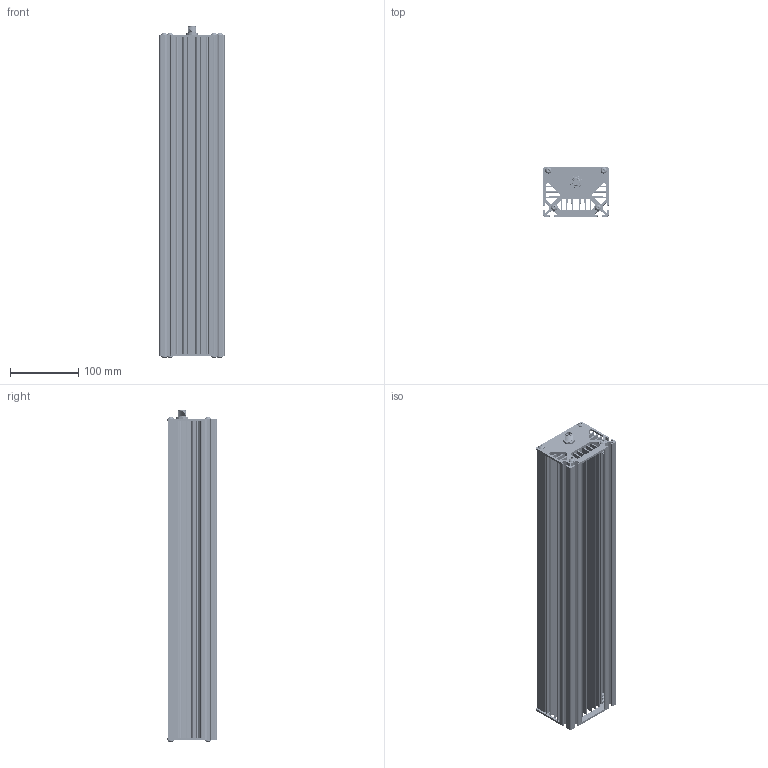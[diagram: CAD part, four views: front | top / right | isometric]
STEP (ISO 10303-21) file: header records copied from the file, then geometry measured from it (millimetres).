
FILE_DESCRIPTION (( 'STEP AP214' ), '1' );
FILE_NAME ('MLLT117.25-XXX.STEP', '2026-05-26T02:05:48', ( '' ), ( '' ), 'SwSTEP 2.0', 'SolidWorks 2025', '' );
FILE_SCHEMA (( 'AUTOMOTIVE_DESIGN' ));
Length unit declared in the file: inch
Products named in the file (22): 2500-00565C-SB; MLL111.5-3535_PCB-LL111.5; MLL111.5-3535; 2500-00565C_ASM; MLL111.5-3535_PCB-LL16; 10-32 x .750_92949A269; xpg3; 2500-00565C-BT; 3535_holder_10568; FSW 4.5-0.2 Connector; SD-MLLTxxxx_17.25; MLL111.5-3535_MLL16; Standard Lens; 2500-00565C; MLLT117.25-XXX; Extrusion MLLT_17.25; Extrusion MLLT_End M12 B&L-code; LED-Lens Holder and Lens; 2060-401; 2610-00066-DOME; Extrusion MLLT_End; 2500-00565C-SBN
Assembly tree (50 placements, depth 6):
  MLLT117.25-XXX
    Extrusion MLLT_17.25
    Extrusion MLLT_End M12 B&L-code
    Extrusion MLLT_End
    10-32 x .750_92949A269  x8
    FSW 4.5-0.2 Connector
    MLL111.5-3535
      MLL111.5-3535_PCB-LL111.5
      LED-Lens Holder and Lens  x12
        3535_holder_10568
        xpg3
          2500-00565C_ASM
            2500-00565C
            2500-00565C-BT
            2500-00565C-SBN
            2500-00565C-SB
          2610-00066-DOME
        Standard Lens
      2060-401  x4
    MLL111.5-3535_MLL16
      MLL111.5-3535_PCB-LL16
      LED-Lens Holder and Lens  x6
        3535_holder_10568
        xpg3
          2500-00565C_ASM
            2500-00565C
            2500-00565C-BT
            2500-00565C-SBN
            2500-00565C-SB
          2610-00066-DOME
        Standard Lens
      2060-401  x2
    SD-MLLTxxxx_17.25
Bounding box: 95.25 x 72.5 x 485.52 mm (x, y, z)
Volume: 975514.8 mm3; surface area: 737486.1 mm2
Topology: 186 solids, 186 shells, 5374 faces, 13893 edges, 8984 vertices
Faces by surface type: plane 2913, cylinder 1110, cone 871, bspline 442, torus 24, sphere 14
Full cylindrical faces by diameter (mm): 0.05 x18, 0.063 x36, 1 x23, 2.25 x6, 2.261 x6, 4.178 x184, 4.826 x176, 5.105 x8, 5.944 x18, 8 x1, 8.3 x1, 9 x1, 9.169 x8, 9.4 x1, 9.45 x2, 9.9 x1, 10 x1, 10.5 x1, 11.4 x1, 12 x1, 13.5 x2, 19.71 x18
Entity records: 37671 total; most frequent: CARTESIAN_POINT 11172, DIRECTION 5176, ORIENTED_EDGE 5024, EDGE_CURVE 2512, AXIS2_PLACEMENT_3D 1869, VERTEX_POINT 1727, LINE 1438, VECTOR 1438
